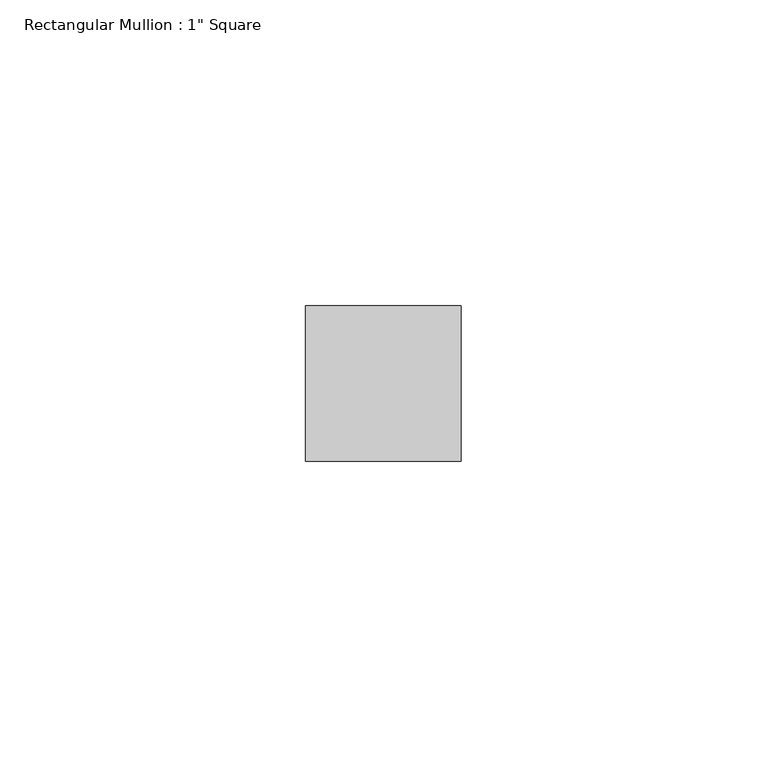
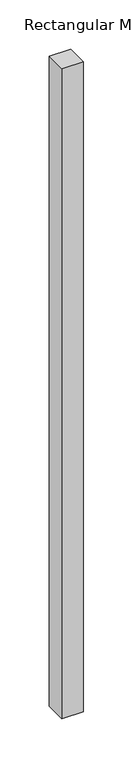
"""IFC4 building model written with IfcOpenShell, lengths in millimetres: member geometry."""

from ifc_helpers import new_model, si_unit, frame, origin, place, context, project, spatial, polyline, outline, extrude, source, transform, mapped, element, save


def member_ac46e98e(model_context):
    return source(origin(), model_context, "Body", "SweptSolid", [
        extrude(outline(polyline([(12.7, 12.7), (12.7, -12.7), (-12.7, -12.7), (-12.7, 12.7), (12.7, 12.7)])), frame((0.0, 0.0, -806.7040646), z_axis=(0.0, 0.0, 1.0), x_axis=(1.0, 0.0, 0.0)), (0.0, 0.0, 1.0), 806.7040646),
    ])


if __name__ == "__main__":
    model = new_model("IFC4")
    model_context = context("Model", 3, world=origin())
    ifc_project = project(units=[si_unit("LENGTHUNIT", "METRE", prefix="MILLI")], contexts=[model_context])
    site = spatial("IfcSite", under=ifc_project)
    building = spatial("IfcBuilding", under=site)
    placement = place(None, origin())
    member_shape = member_ac46e98e(model_context)
    element("IfcMember", 1, ObjectType="Rectangular Mullion : 1\" Square", at=placement, inside=building, context=model_context, shape_type="MappedRepresentation", body=[
        mapped(member_shape, transform((0.0, 0.0, 0.0), x_axis=(1.0, 0.0, 0.0), y_axis=(0.0, 1.0, 0.0), z_axis=(0.0, 0.0, 1.0))),
    ])
    save(model, "model.ifc")
